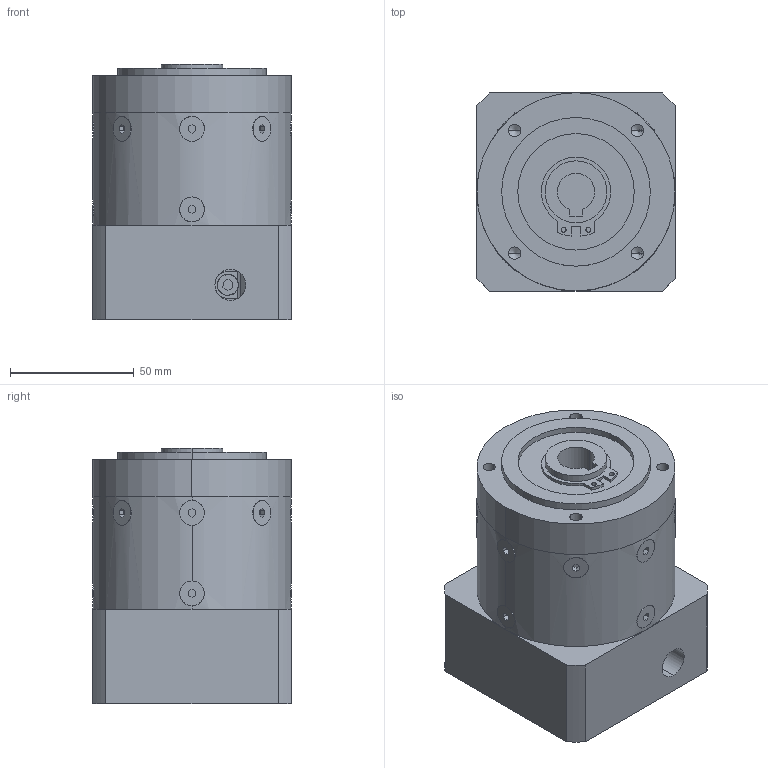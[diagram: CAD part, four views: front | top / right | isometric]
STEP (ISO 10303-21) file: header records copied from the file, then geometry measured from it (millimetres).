
FILE_DESCRIPTION (( 'STEP AP203' ), '1' );
FILE_NAME ('PBE80-L1-19-70-90.STEP', '2022-07-23T07:56:25', ( 'Windows User' ), ( 'P R C' ), 'SwSTEP 2.0', 'SolidWorks 2016', '' );
FILE_SCHEMA (( 'CONFIG_CONTROL_DESIGN' ));
Length unit declared in the file: millimetre
Products named in the file (7): PBE80 蟀諉啣-梓袧; 粣創-6006 30x55x13; PBE80-L1-19-70-90; PBE80 奻屳唳; PBE80 薊粣ん_D7-19 梓袧; PBE80 内齿圈-孔输出-B版_一级内齿圈; 囀鞠褒蹟佪-M5℅20
Assembly tree (6 placements, depth 2):
  PBE80-L1-19-70-90
    PBE80 奻屳唳
    PBE80 薊粣ん_D7-19 梓袧
    PBE80 内齿圈-孔输出-B版_一级内齿圈
    囀鞠褒蹟佪-M5℅20
    PBE80 蟀諉啣-梓袧
    粣創-6006 30x55x13
Bounding box: 80.1 x 80.1 x 103 mm (x, y, z)
Volume: 466209.1 mm3; surface area: 111480 mm2
Topology: 6 solids, 6 shells, 1067 faces, 2860 edges, 1879 vertices
Faces by surface type: plane 560, bspline 298, cylinder 181, cone 28
Entity records: 46145 total; most frequent: CARTESIAN_POINT 20753, ORIENTED_EDGE 5672, DIRECTION 4212, EDGE_CURVE 2836, VERTEX_POINT 1879, LINE 1458, VECTOR 1458, AXIS2_PLACEMENT_3D 1377
